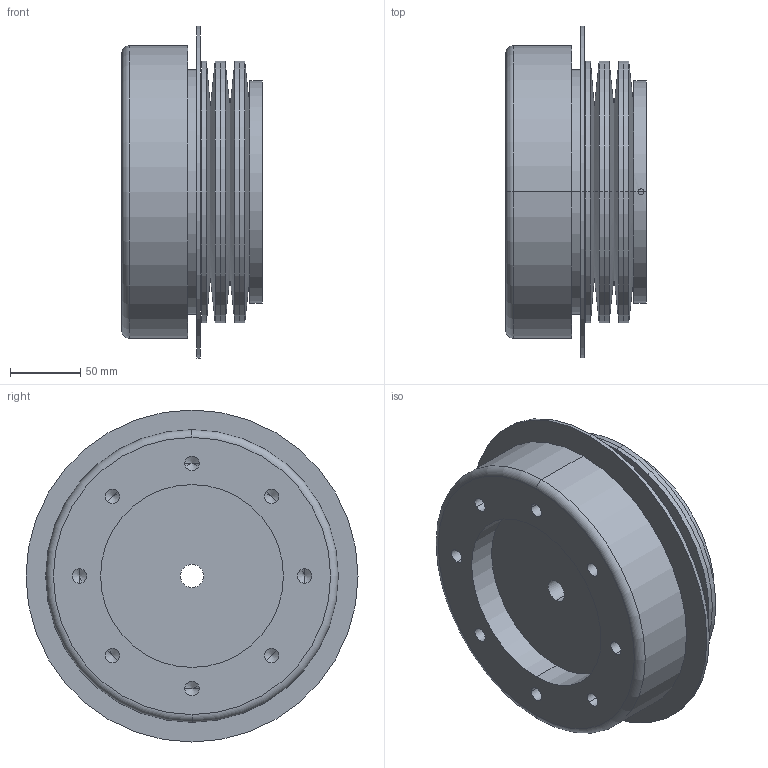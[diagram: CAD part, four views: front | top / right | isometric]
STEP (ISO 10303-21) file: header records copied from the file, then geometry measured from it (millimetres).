
FILE_DESCRIPTION (( 'STEP AP203' ), '1' );
FILE_NAME ('ST14C-200B.STEP', '2009-09-30T17:48:26', ( 'USER' ), ( 'HOME' ), 'SwSTEP 2.0', 'SolidWorks 2007', '' );
FILE_SCHEMA (( 'CONFIG_CONTROL_DESIGN' ));
Length unit declared in the file: millimetre
Products named in the file (1): ST14C-200B
Bounding box: 100 x 236 x 236 mm (x, y, z)
Volume: 2404229.2 mm3; surface area: 379665.9 mm2
Topology: 7 solids, 7 shells, 102 faces, 230 edges, 126 vertices
Faces by surface type: cylinder 56, cone 36, plane 8, torus 2
Entity records: 3019 total; most frequent: CARTESIAN_POINT 679, DIRECTION 516, ORIENTED_EDGE 428, EDGE_CURVE 214, AXIS2_PLACEMENT_3D 211, VERTEX_POINT 126, EDGE_LOOP 120, CIRCLE 108
